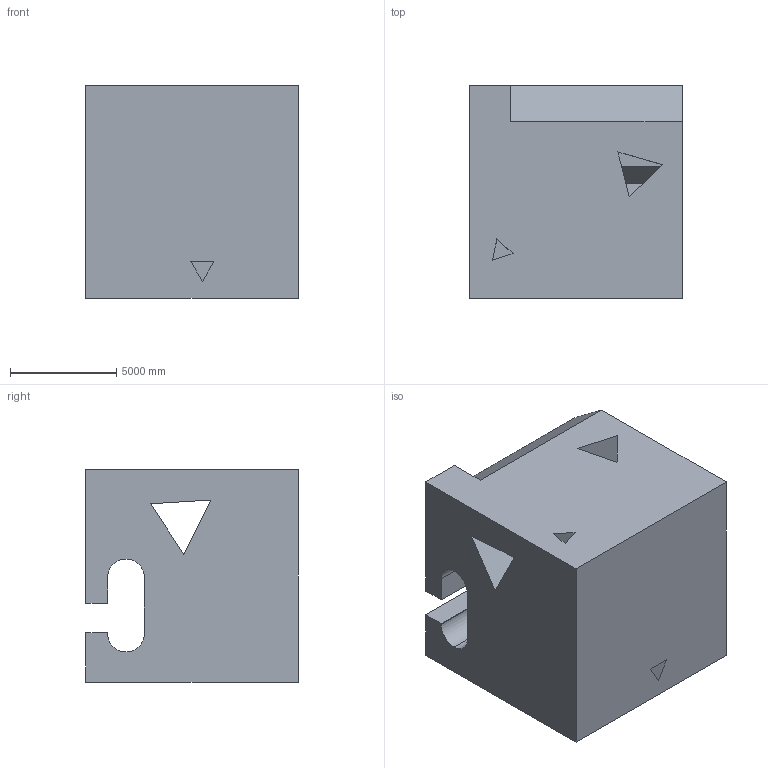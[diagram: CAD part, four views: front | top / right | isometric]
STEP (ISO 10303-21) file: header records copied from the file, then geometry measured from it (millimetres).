
FILE_DESCRIPTION (( 'STEP AP203' ), '1' );
FILE_NAME ('1659.STEP', '2022-08-19T11:27:08', ( 'user' ), ( '' ), 'SwSTEP 2.0', 'SolidWorks 2021', '' );
FILE_SCHEMA (( 'CONFIG_CONTROL_DESIGN' ));
Length unit declared in the file: centimetre
Products named in the file (1): 1659
Bounding box: 10000 x 10000 x 10000 mm (x, y, z)
Volume: 867045933292 mm3; surface area: 776029558 mm2
Topology: 1 solids, 1 shells, 35 faces, 90 edges, 60 vertices
Faces by surface type: plane 32, cylinder 3
Entity records: 1135 total; most frequent: CARTESIAN_POINT 186, ORIENTED_EDGE 180, DIRECTION 168, EDGE_CURVE 90, LINE 84, VECTOR 84, VERTEX_POINT 60, EDGE_LOOP 42
